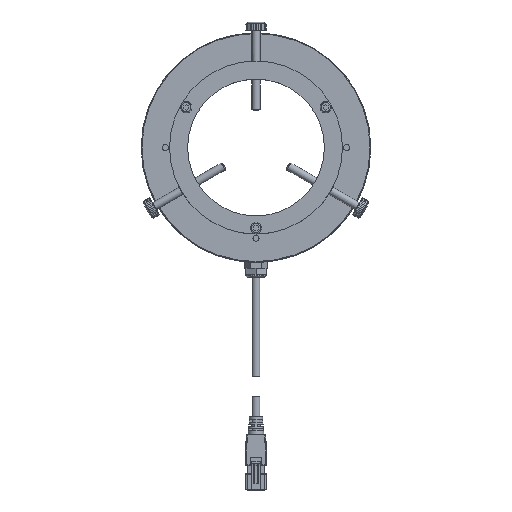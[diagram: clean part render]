
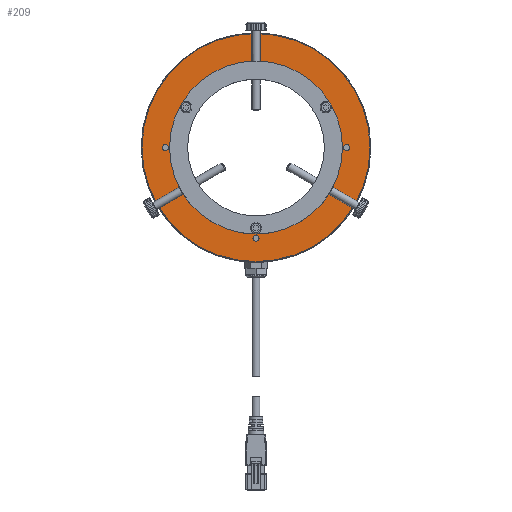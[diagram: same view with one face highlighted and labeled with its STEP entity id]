
A CAD part, top view. The second image highlights one B-rep face of the part: STEP entity #209.
In plain terms, the highlighted planar face has unit normal (0, 0, 1).
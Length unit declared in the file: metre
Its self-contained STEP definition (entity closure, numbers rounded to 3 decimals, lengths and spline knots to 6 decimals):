
#209=ADVANCED_FACE('125:5233',(#1132,#1133,#1134,#1135,#1136,#1137),#1138,.T.);
#1132=FACE_BOUND('',#3384,.T.);
#1133=FACE_BOUND('',#3385,.T.);
#1134=FACE_BOUND('',#3386,.T.);
#1135=FACE_BOUND('',#3387,.T.);
#1136=FACE_BOUND('',#3388,.T.);
#1137=FACE_OUTER_BOUND('',#3389,.T.);
#1138=PLANE('',#3390);
#3384=EDGE_LOOP('',(#8061,#8062));
#3385=EDGE_LOOP('',(#8063,#8064));
#3386=EDGE_LOOP('',(#8065,#8066));
#3387=EDGE_LOOP('',(#8067,#8068));
#3388=EDGE_LOOP('',(#8069,#8070));
#3389=EDGE_LOOP('',(#8071,#8072));
#3390=AXIS2_PLACEMENT_3D('',#8073,#8074,#8075);
#8061=ORIENTED_EDGE('',*,*,#14422,.T.);
#8062=ORIENTED_EDGE('',*,*,#14199,.T.);
#8063=ORIENTED_EDGE('',*,*,#14423,.T.);
#8064=ORIENTED_EDGE('',*,*,#14226,.T.);
#8065=ORIENTED_EDGE('',*,*,#14424,.T.);
#8066=ORIENTED_EDGE('',*,*,#14230,.T.);
#8067=ORIENTED_EDGE('',*,*,#14425,.T.);
#8068=ORIENTED_EDGE('',*,*,#14234,.T.);
#8069=ORIENTED_EDGE('',*,*,#14426,.T.);
#8070=ORIENTED_EDGE('',*,*,#14238,.T.);
#8071=ORIENTED_EDGE('',*,*,#14319,.F.);
#8072=ORIENTED_EDGE('',*,*,#14427,.F.);
#8073=CARTESIAN_POINT('',(0.0,0.0,0.021));
#8074=DIRECTION('',(0.0,0.0,1.0));
#8075=DIRECTION('',(1.0,0.0,0.0));
#14199=EDGE_CURVE('125:6949',#16336,#16333,#16337,.T.);
#14226=EDGE_CURVE('125:6952',#16383,#16387,#16389,.T.);
#14230=EDGE_CURVE('125:6955',#16391,#16395,#16397,.T.);
#14234=EDGE_CURVE('125:6958',#16399,#16403,#16405,.T.);
#14238=EDGE_CURVE('125:6961',#16407,#16411,#16413,.T.);
#14319=EDGE_CURVE('125:6964',#16565,#16562,#16567,.T.);
#14422=EDGE_CURVE('125:6949',#16333,#16336,#16758,.T.);
#14423=EDGE_CURVE('125:6952',#16387,#16383,#16759,.T.);
#14424=EDGE_CURVE('125:6955',#16395,#16391,#16760,.T.);
#14425=EDGE_CURVE('125:6958',#16403,#16399,#16761,.T.);
#14426=EDGE_CURVE('125:6961',#16411,#16407,#16762,.T.);
#14427=EDGE_CURVE('125:6964',#16562,#16565,#16763,.T.);
#16333=VERTEX_POINT('',#20134);
#16336=VERTEX_POINT('',#20138);
#16337=CIRCLE('',#20139,0.043);
#16383=VERTEX_POINT('',#20194);
#16387=VERTEX_POINT('',#20199);
#16389=CIRCLE('',#20202,0.0015);
#16391=VERTEX_POINT('',#20204);
#16395=VERTEX_POINT('',#20209);
#16397=CIRCLE('',#20212,0.0015);
#16399=VERTEX_POINT('',#20214);
#16403=VERTEX_POINT('',#20219);
#16405=CIRCLE('',#20222,0.0015);
#16407=VERTEX_POINT('',#20224);
#16411=VERTEX_POINT('',#20229);
#16413=CIRCLE('',#20232,0.0015);
#16562=VERTEX_POINT('',#20451);
#16565=VERTEX_POINT('',#20455);
#16567=CIRCLE('',#20458,0.0567);
#16758=CIRCLE('',#20748,0.043);
#16759=CIRCLE('',#20749,0.0015);
#16760=CIRCLE('',#20750,0.0015);
#16761=CIRCLE('',#20751,0.0015);
#16762=CIRCLE('',#20752,0.0015);
#16763=CIRCLE('',#20753,0.0567);
#20134=CARTESIAN_POINT('',(0.043,0.0,0.021));
#20138=CARTESIAN_POINT('',(-0.043,0.,0.021));
#20139=AXIS2_PLACEMENT_3D('',#25070,#25071,#25072);
#20194=CARTESIAN_POINT('',(0.0015,0.045,0.021));
#20199=CARTESIAN_POINT('',(-0.0015,0.045,0.021));
#20202=AXIS2_PLACEMENT_3D('',#25129,#25130,#25131);
#20204=CARTESIAN_POINT('',(-0.0435,0.,0.021));
#20209=CARTESIAN_POINT('',(-0.0465,0.,0.021));
#20212=AXIS2_PLACEMENT_3D('',#25137,#25138,#25139);
#20214=CARTESIAN_POINT('',(0.0465,0.,0.021));
#20219=CARTESIAN_POINT('',(0.0435,0.,0.021));
#20222=AXIS2_PLACEMENT_3D('',#25145,#25146,#25147);
#20224=CARTESIAN_POINT('',(0.0015,-0.045,0.021));
#20229=CARTESIAN_POINT('',(-0.0015,-0.045,0.021));
#20232=AXIS2_PLACEMENT_3D('',#25153,#25154,#25155);
#20451=CARTESIAN_POINT('',(-0.0567,0.,0.021));
#20455=CARTESIAN_POINT('',(0.0567,0.,0.021));
#20458=AXIS2_PLACEMENT_3D('',#25312,#25313,#25314);
#20748=AXIS2_PLACEMENT_3D('',#25519,#25520,#25521);
#20749=AXIS2_PLACEMENT_3D('',#25522,#25523,#25524);
#20750=AXIS2_PLACEMENT_3D('',#25525,#25526,#25527);
#20751=AXIS2_PLACEMENT_3D('',#25528,#25529,#25530);
#20752=AXIS2_PLACEMENT_3D('',#25531,#25532,#25533);
#20753=AXIS2_PLACEMENT_3D('',#25534,#25535,#25536);
#25070=CARTESIAN_POINT('',(0.0,0.0,0.021));
#25071=DIRECTION('',(0.0,0.0,-1.0));
#25072=DIRECTION('',(1.0,0.0,0.0));
#25129=CARTESIAN_POINT('',(0.,0.045,0.021));
#25130=DIRECTION('',(0.0,0.0,-1.0));
#25131=DIRECTION('',(1.0,0.0,0.0));
#25137=CARTESIAN_POINT('',(-0.045,0.,0.021));
#25138=DIRECTION('',(0.0,0.0,-1.0));
#25139=DIRECTION('',(1.0,0.0,0.0));
#25145=CARTESIAN_POINT('',(0.045,0.0,0.021));
#25146=DIRECTION('',(0.0,0.0,-1.0));
#25147=DIRECTION('',(1.0,0.0,0.0));
#25153=CARTESIAN_POINT('',(0.,-0.045,0.021));
#25154=DIRECTION('',(0.0,0.0,-1.0));
#25155=DIRECTION('',(1.0,0.0,0.0));
#25312=CARTESIAN_POINT('',(0.0,0.0,0.021));
#25313=DIRECTION('',(-0.0,0.0,-1.0));
#25314=DIRECTION('',(-1.0,0.0,0.0));
#25519=CARTESIAN_POINT('',(0.0,0.0,0.021));
#25520=DIRECTION('',(0.0,0.0,-1.0));
#25521=DIRECTION('',(1.0,0.0,0.0));
#25522=CARTESIAN_POINT('',(0.,0.045,0.021));
#25523=DIRECTION('',(0.0,0.0,-1.0));
#25524=DIRECTION('',(1.0,0.0,0.0));
#25525=CARTESIAN_POINT('',(-0.045,0.,0.021));
#25526=DIRECTION('',(0.0,0.0,-1.0));
#25527=DIRECTION('',(1.0,0.0,0.0));
#25528=CARTESIAN_POINT('',(0.045,0.0,0.021));
#25529=DIRECTION('',(0.0,0.0,-1.0));
#25530=DIRECTION('',(1.0,0.0,0.0));
#25531=CARTESIAN_POINT('',(0.,-0.045,0.021));
#25532=DIRECTION('',(0.0,0.0,-1.0));
#25533=DIRECTION('',(1.0,0.0,0.0));
#25534=CARTESIAN_POINT('',(0.0,0.0,0.021));
#25535=DIRECTION('',(-0.0,0.0,-1.0));
#25536=DIRECTION('',(-1.0,0.0,0.0));
